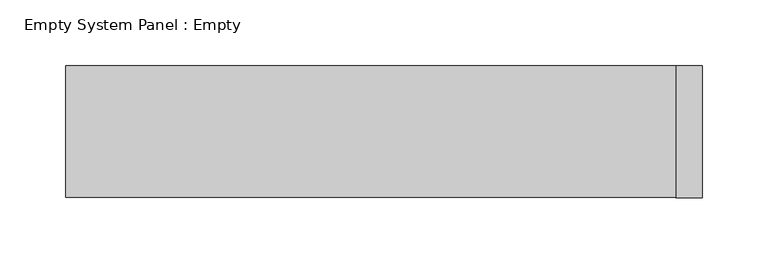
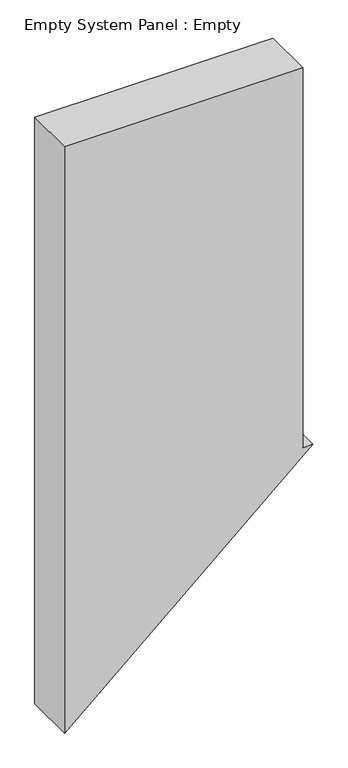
"""IFC4 building model written with IfcOpenShell, lengths in millimetres: plate geometry, Empty System Panel : Empty."""

from ifc_helpers import new_model, si_unit, frame, origin, place, context, project, spatial, polyline, outline, extrude, source, transform, mapped, element, save


def empty_system_panel_empty_c39fa91b(model_context):
    return source(origin(), model_context, "Body", "SweptSolid", [
        extrude(outline(polyline([(0.0, -241.7391304), (424.4092097, 241.7391304), (424.4092097, 221.7391304), (1204.349024, 221.7391304), (1204.349024, -241.7391304), (0.0, -241.7391304)])), frame((0.0, -50.0, 0.0), z_axis=(0.0, 1.0, 0.0), x_axis=(0.0, 0.0, 1.0)), (0.0, 0.0, 1.0), 100.0),
    ])


if __name__ == "__main__":
    model = new_model("IFC4")
    model_context = context("Model", 3, world=origin())
    ifc_project = project(units=[si_unit("LENGTHUNIT", "METRE", prefix="MILLI")], contexts=[model_context])
    site = spatial("IfcSite", under=ifc_project)
    building = spatial("IfcBuilding", under=site)
    placement = place(None, origin())
    empty_system_panel_empty_shape = empty_system_panel_empty_c39fa91b(model_context)
    element("IfcPlate", 1, ObjectType="Empty System Panel : Empty", at=placement, inside=building, context=model_context, shape_type="MappedRepresentation", body=[
        mapped(empty_system_panel_empty_shape, transform((0.0, 0.0, 0.0), x_axis=(1.0, 0.0, 0.0), y_axis=(0.0, 1.0, 0.0), z_axis=(0.0, 0.0, 1.0))),
    ])
    save(model, "model.ifc")
